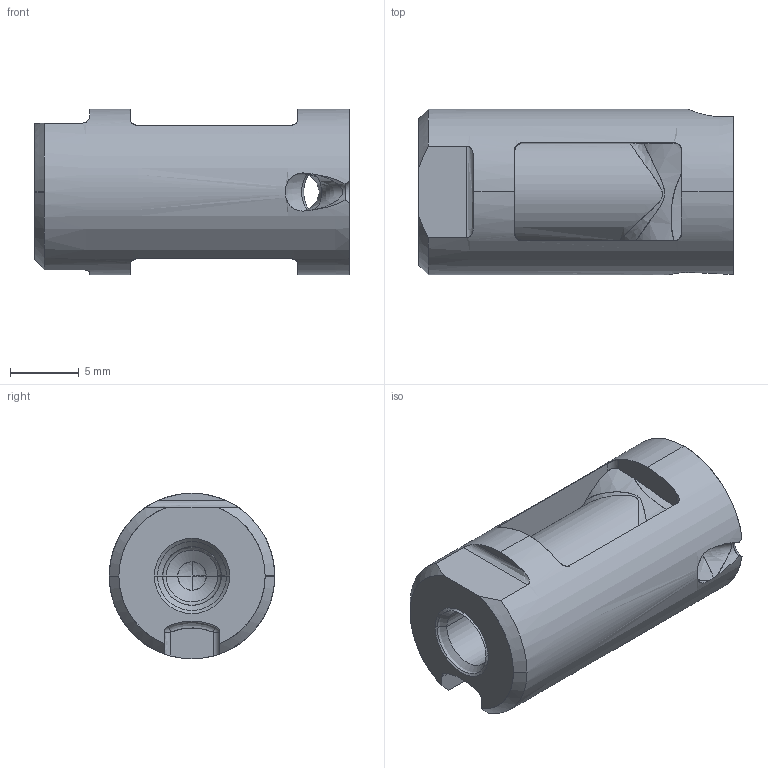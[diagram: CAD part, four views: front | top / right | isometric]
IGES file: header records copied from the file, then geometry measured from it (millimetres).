
Start section: START RECORD GO HERE.
Global section: file name: tgr12-12-s1.igs; native system: DASSAULT SYSTEMES CATIA V5 R20 - www.3ds.com; preprocessor: CATIA Version 5 Release 20 ; author: Utente; organization: NB04-ASUS; date: 20200417.224015; units: millimetre
Bounding box: 22.8 x 12 x 12 mm (x, y, z)
Surface area: 1726.1 mm2 (no closed solid volume)
Topology: 0 solids, 0 shells, 84 faces, 516 edges, 510 vertices
Faces by surface type: revolution 51, plane 19, bspline 14
